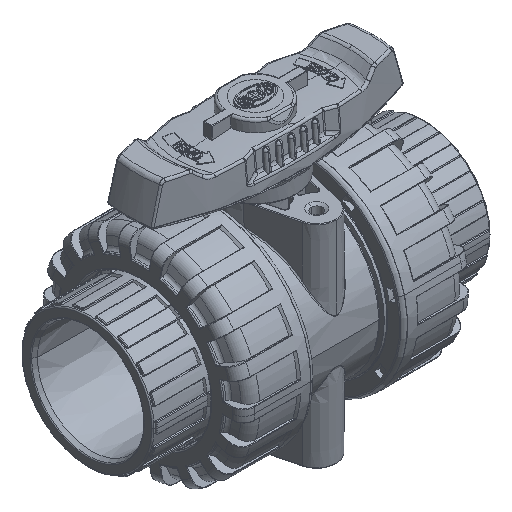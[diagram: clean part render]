
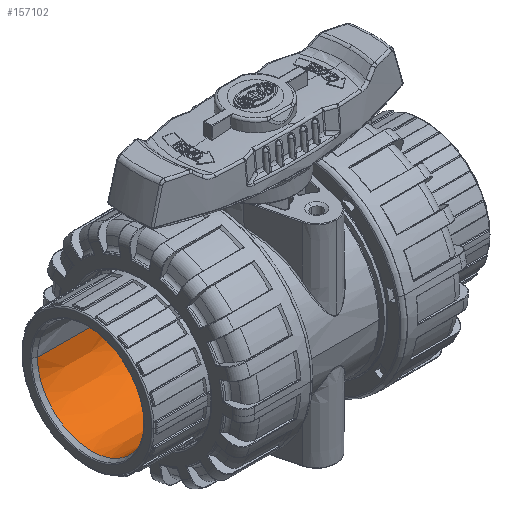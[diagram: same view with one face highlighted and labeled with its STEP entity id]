
A CAD part, isometric view. The second image highlights one B-rep face of the part: STEP entity #157102.
In plain terms, the highlighted conical face has half-angle 0.368 degrees and reference radius 0.958 mm.
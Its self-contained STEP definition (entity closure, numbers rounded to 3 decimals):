
#139921 = PLANE('',#139922);
#139922 = AXIS2_PLACEMENT_3D('',#139923,#139924,#139925);
#139923 = CARTESIAN_POINT('',(-72.873,-10.732,
    -79.195));
#139924 = DIRECTION('',(-1.,0.,0.));
#139925 = DIRECTION('',(0.,-1.,0.));
#140139 = VERTEX_POINT('',#140140);
#140140 = CARTESIAN_POINT('',(-74.173,-11.69,
    -79.981));
#140147 = CONICAL_SURFACE('',#140148,0.998,0.469);
#140148 = AXIS2_PLACEMENT_3D('',#140149,#140150,#140151);
#140149 = CARTESIAN_POINT('',(-74.252,-10.732,
    -79.981));
#140150 = DIRECTION('',(-1.,0.,0.));
#140151 = DIRECTION('',(0.,-1.,0.));
#140189 = VERTEX_POINT('',#140190);
#140190 = CARTESIAN_POINT('',(-74.173,-9.774,
    -79.981));
#140211 = EDGE_CURVE('',#140189,#140139,#140212,.T.);
#140212 = SURFACE_CURVE('',#140213,(#140218,#140225),.PCURVE_S1.);
#140213 = CIRCLE('',#140214,0.958);
#140214 = AXIS2_PLACEMENT_3D('',#140215,#140216,#140217);
#140215 = CARTESIAN_POINT('',(-74.173,-10.732,
    -79.981));
#140216 = DIRECTION('',(-1.,0.,0.));
#140217 = DIRECTION('',(0.,1.,0.));
#140218 = PCURVE('',#140147,#140219);
#140219 = DEFINITIONAL_REPRESENTATION('',(#140220),#140224);
#140220 = LINE('',#140221,#140222);
#140221 = CARTESIAN_POINT('',(3.142,-0.079));
#140222 = VECTOR('',#140223,1.);
#140223 = DIRECTION('',(1.,0.));
#140224 = ( GEOMETRIC_REPRESENTATION_CONTEXT(2) 
PARAMETRIC_REPRESENTATION_CONTEXT() REPRESENTATION_CONTEXT('2D SPACE',''
  ) );
#140225 = PCURVE('',#140226,#140231);
#140226 = CONICAL_SURFACE('',#140227,0.958,0.006);
#140227 = AXIS2_PLACEMENT_3D('',#140228,#140229,#140230);
#140228 = CARTESIAN_POINT('',(-74.252,-10.732,
    -79.981));
#140229 = DIRECTION('',(-1.,0.,0.));
#140230 = DIRECTION('',(0.,1.,0.));
#140231 = DEFINITIONAL_REPRESENTATION('',(#140232),#140236);
#140232 = LINE('',#140233,#140234);
#140233 = CARTESIAN_POINT('',(0.,-0.079));
#140234 = VECTOR('',#140235,1.);
#140235 = DIRECTION('',(1.,0.));
#140236 = ( GEOMETRIC_REPRESENTATION_CONTEXT(2) 
PARAMETRIC_REPRESENTATION_CONTEXT() REPRESENTATION_CONTEXT('2D SPACE',''
  ) );
#140645 = EDGE_CURVE('',#140646,#140189,#140648,.T.);
#140646 = VERTEX_POINT('',#140647);
#140647 = CARTESIAN_POINT('',(-72.873,-9.783,
    -79.981));
#140648 = SURFACE_CURVE('',#140649,(#140653,#140665),.PCURVE_S1.);
#140649 = LINE('',#140650,#140651);
#140650 = CARTESIAN_POINT('',(-74.252,-9.774,
    -79.981));
#140651 = VECTOR('',#140652,1.);
#140652 = DIRECTION('',(-1.,0.006,0.));
#140653 = PCURVE('',#140654,#140659);
#140654 = CONICAL_SURFACE('',#140655,0.958,0.006);
#140655 = AXIS2_PLACEMENT_3D('',#140656,#140657,#140658);
#140656 = CARTESIAN_POINT('',(-74.252,-10.732,
    -79.981));
#140657 = DIRECTION('',(-1.,0.,0.));
#140658 = DIRECTION('',(0.,1.,0.));
#140659 = DEFINITIONAL_REPRESENTATION('',(#140660),#140664);
#140660 = LINE('',#140661,#140662);
#140661 = CARTESIAN_POINT('',(6.283,0.));
#140662 = VECTOR('',#140663,1.);
#140663 = DIRECTION('',(0.,1.));
#140664 = ( GEOMETRIC_REPRESENTATION_CONTEXT(2) 
PARAMETRIC_REPRESENTATION_CONTEXT() REPRESENTATION_CONTEXT('2D SPACE',''
  ) );
#140665 = PCURVE('',#140226,#140666);
#140666 = DEFINITIONAL_REPRESENTATION('',(#140667),#140671);
#140667 = LINE('',#140668,#140669);
#140668 = CARTESIAN_POINT('',(0.,0.));
#140669 = VECTOR('',#140670,1.);
#140670 = DIRECTION('',(0.,1.));
#140671 = ( GEOMETRIC_REPRESENTATION_CONTEXT(2) 
PARAMETRIC_REPRESENTATION_CONTEXT() REPRESENTATION_CONTEXT('2D SPACE',''
  ) );
#140695 = EDGE_CURVE('',#140696,#140139,#140698,.T.);
#140696 = VERTEX_POINT('',#140697);
#140697 = CARTESIAN_POINT('',(-72.873,-11.682,
    -79.981));
#140698 = SURFACE_CURVE('',#140699,(#140703,#140710),.PCURVE_S1.);
#140699 = LINE('',#140700,#140701);
#140700 = CARTESIAN_POINT('',(-74.252,-11.691,
    -79.981));
#140701 = VECTOR('',#140702,1.);
#140702 = DIRECTION('',(-1.,-0.006,0.));
#140703 = PCURVE('',#140654,#140704);
#140704 = DEFINITIONAL_REPRESENTATION('',(#140705),#140709);
#140705 = LINE('',#140706,#140707);
#140706 = CARTESIAN_POINT('',(3.142,0.));
#140707 = VECTOR('',#140708,1.);
#140708 = DIRECTION('',(0.,1.));
#140709 = ( GEOMETRIC_REPRESENTATION_CONTEXT(2) 
PARAMETRIC_REPRESENTATION_CONTEXT() REPRESENTATION_CONTEXT('2D SPACE',''
  ) );
#140710 = PCURVE('',#140226,#140711);
#140711 = DEFINITIONAL_REPRESENTATION('',(#140712),#140716);
#140712 = LINE('',#140713,#140714);
#140713 = CARTESIAN_POINT('',(3.142,0.));
#140714 = VECTOR('',#140715,1.);
#140715 = DIRECTION('',(0.,1.));
#140716 = ( GEOMETRIC_REPRESENTATION_CONTEXT(2) 
PARAMETRIC_REPRESENTATION_CONTEXT() REPRESENTATION_CONTEXT('2D SPACE',''
  ) );
#153784 = EDGE_CURVE('',#140696,#140646,#153785,.T.);
#153785 = SURFACE_CURVE('',#153786,(#153791,#153802),.PCURVE_S1.);
#153786 = CIRCLE('',#153787,0.95);
#153787 = AXIS2_PLACEMENT_3D('',#153788,#153789,#153790);
#153788 = CARTESIAN_POINT('',(-72.873,-10.732,
    -79.981));
#153789 = DIRECTION('',(1.,0.,0.));
#153790 = DIRECTION('',(0.,-1.,0.));
#153791 = PCURVE('',#139921,#153792);
#153792 = DEFINITIONAL_REPRESENTATION('',(#153793),#153801);
#153793 = ( BOUNDED_CURVE() B_SPLINE_CURVE(2,(#153794,#153795,#153796,
    #153797,#153798,#153799,#153800),.UNSPECIFIED.,.T.,.F.) 
B_SPLINE_CURVE_WITH_KNOTS((1,2,2,2,2,1),(-2.094,0.,
    2.094,4.189,6.283,8.378),
.UNSPECIFIED.) CURVE() GEOMETRIC_REPRESENTATION_ITEM() 
RATIONAL_B_SPLINE_CURVE((1.,0.5,1.,0.5,1.,0.5,1.)) REPRESENTATION_ITEM(
  '') );
#153794 = CARTESIAN_POINT('',(0.95,-0.786));
#153795 = CARTESIAN_POINT('',(0.95,-2.431));
#153796 = CARTESIAN_POINT('',(-0.475,-1.608));
#153797 = CARTESIAN_POINT('',(-1.899,-0.786));
#153798 = CARTESIAN_POINT('',(-0.475,0.036));
#153799 = CARTESIAN_POINT('',(0.95,0.859));
#153800 = CARTESIAN_POINT('',(0.95,-0.786));
#153801 = ( GEOMETRIC_REPRESENTATION_CONTEXT(2) 
PARAMETRIC_REPRESENTATION_CONTEXT() REPRESENTATION_CONTEXT('2D SPACE',''
  ) );
#153802 = PCURVE('',#140226,#153803);
#153803 = DEFINITIONAL_REPRESENTATION('',(#153804),#153808);
#153804 = LINE('',#153805,#153806);
#153805 = CARTESIAN_POINT('',(3.142,-1.379));
#153806 = VECTOR('',#153807,1.);
#153807 = DIRECTION('',(-1.,0.));
#153808 = ( GEOMETRIC_REPRESENTATION_CONTEXT(2) 
PARAMETRIC_REPRESENTATION_CONTEXT() REPRESENTATION_CONTEXT('2D SPACE',''
  ) );
#157102 = ADVANCED_FACE('',(#157103),#140226,.F.);
#157103 = FACE_BOUND('',#157104,.T.);
#157104 = EDGE_LOOP('',(#157105,#157106,#157107,#157108));
#157105 = ORIENTED_EDGE('',*,*,#140695,.F.);
#157106 = ORIENTED_EDGE('',*,*,#153784,.T.);
#157107 = ORIENTED_EDGE('',*,*,#140645,.T.);
#157108 = ORIENTED_EDGE('',*,*,#140211,.T.);
